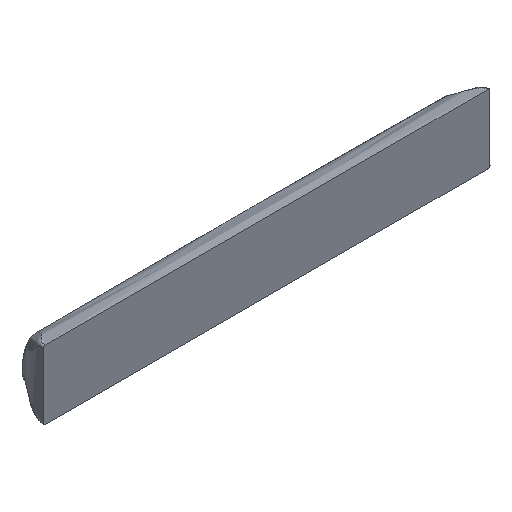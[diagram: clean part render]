
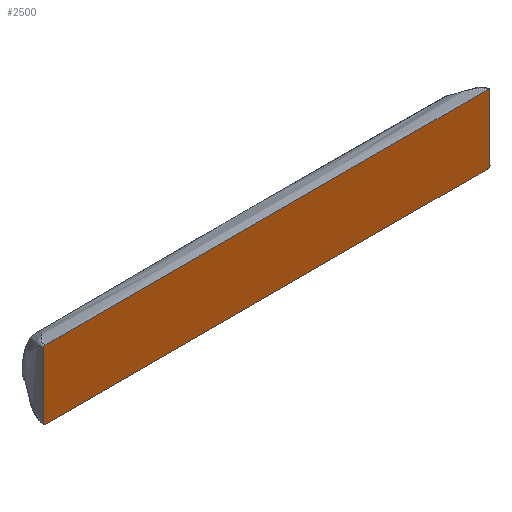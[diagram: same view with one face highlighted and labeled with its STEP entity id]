
A CAD part, isometric view. The second image highlights one B-rep face of the part: STEP entity #2500.
In plain terms, the highlighted planar face has unit normal (0, -1, 0).
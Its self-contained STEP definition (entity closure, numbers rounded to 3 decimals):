
#22 = VERTEX_POINT ( 'NONE', #55 ) ;
#38 = DIRECTION ( 'NONE',  ( 1., 0., 0. ) ) ;
#51 = EDGE_CURVE ( 'NONE', #794, #1899, #1931, .T. ) ;
#55 = CARTESIAN_POINT ( 'NONE',  ( -58.606, 0., -9.1 ) ) ;
#110 = CARTESIAN_POINT ( 'NONE',  ( -59.106, 0., 8.933 ) ) ;
#198 = EDGE_CURVE ( 'NONE', #2284, #2400, #2018, .T. ) ;
#298 = B_SPLINE_CURVE_WITH_KNOTS ( 'NONE', 3,
 ( #483, #1780, #1815, #2040 ),
 .UNSPECIFIED., .F., .F.,
 ( 4, 4 ),
 ( 0., 1. ),
 .UNSPECIFIED. ) ;
#395 = EDGE_CURVE ( 'NONE', #1311, #22, #1669, .T. ) ;
#427 = VECTOR ( 'NONE', #1756, 1000. ) ;
#483 = CARTESIAN_POINT ( 'NONE',  ( 59.106, 0., 8.6 ) ) ;
#494 = ORIENTED_EDGE ( 'NONE', *, *, #1329, .T. ) ;
#594 = EDGE_CURVE ( 'NONE', #2284, #22, #1594, .T. ) ;
#675 = DIRECTION ( 'NONE',  ( 0., -1., 0. ) ) ;
#681 = CARTESIAN_POINT ( 'NONE',  ( 58.606, 0., 9.1 ) ) ;
#687 = CARTESIAN_POINT ( 'NONE',  ( -59.106, 0., -9.1 ) ) ;
#742 = ORIENTED_EDGE ( 'NONE', *, *, #395, .F. ) ;
#759 = EDGE_CURVE ( 'NONE', #1774, #1899, #298, .T. ) ;
#794 = VERTEX_POINT ( 'NONE', #3367 ) ;
#830 = CARTESIAN_POINT ( 'NONE',  ( -58.606, 0., 9.1 ) ) ;
#854 = CARTESIAN_POINT ( 'NONE',  ( 59.106, 0., -8.6 ) ) ;
#871 = CARTESIAN_POINT ( 'NONE',  ( 58.606, 0., -9.1 ) ) ;
#881 = CARTESIAN_POINT ( 'NONE',  ( 59.106, 0., 9.1 ) ) ;
#883 = CARTESIAN_POINT ( 'NONE',  ( 59.106, 0., -9.1 ) ) ;
#897 = DIRECTION ( 'NONE',  ( 0., 0., -1. ) ) ;
#981 = VECTOR ( 'NONE', #897, 1000. ) ;
#985 = FACE_OUTER_BOUND ( 'NONE', #2250, .T. ) ;
#1033 = ORIENTED_EDGE ( 'NONE', *, *, #51, .F. ) ;
#1041 = B_SPLINE_CURVE_WITH_KNOTS ( 'NONE', 3,
 ( #830, #1886, #110, #2524 ),
 .UNSPECIFIED., .F., .F.,
 ( 4, 4 ),
 ( 0., 1. ),
 .UNSPECIFIED. ) ;
#1132 = CARTESIAN_POINT ( 'NONE',  ( 59.106, 0., -9.1 ) ) ;
#1258 = PLANE ( 'NONE',  #3187 ) ;
#1287 = B_SPLINE_CURVE_WITH_KNOTS ( 'NONE', 3,
 ( #871, #1908, #3222, #854 ),
 .UNSPECIFIED., .F., .F.,
 ( 4, 4 ),
 ( 0., 1. ),
 .UNSPECIFIED. ) ;
#1311 = VERTEX_POINT ( 'NONE', #2664 ) ;
#1329 = EDGE_CURVE ( 'NONE', #1311, #3376, #1287, .T. ) ;
#1418 = CARTESIAN_POINT ( 'NONE',  ( -59.106, 0., 8.6 ) ) ;
#1492 = VECTOR ( 'NONE', #38, 1000. ) ;
#1515 = CARTESIAN_POINT ( 'NONE',  ( 0., 0., 0. ) ) ;
#1529 = EDGE_CURVE ( 'NONE', #1774, #3376, #1637, .T. ) ;
#1556 = CARTESIAN_POINT ( 'NONE',  ( -58.606, 0., -9.1 ) ) ;
#1585 = ORIENTED_EDGE ( 'NONE', *, *, #2798, .T. ) ;
#1590 = CARTESIAN_POINT ( 'NONE',  ( -59.106, 0., -8.933 ) ) ;
#1594 = B_SPLINE_CURVE_WITH_KNOTS ( 'NONE', 3,
 ( #1833, #1590, #2897, #1556 ),
 .UNSPECIFIED., .F., .F.,
 ( 4, 4 ),
 ( 0., 1. ),
 .UNSPECIFIED. ) ;
#1637 = LINE ( 'NONE', #883, #981 ) ;
#1669 = LINE ( 'NONE', #1132, #2207 ) ;
#1756 = DIRECTION ( 'NONE',  ( 0., 0., 1. ) ) ;
#1774 = VERTEX_POINT ( 'NONE', #3389 ) ;
#1780 = CARTESIAN_POINT ( 'NONE',  ( 59.106, 0., 8.933 ) ) ;
#1815 = CARTESIAN_POINT ( 'NONE',  ( 58.94, 0., 9.1 ) ) ;
#1833 = CARTESIAN_POINT ( 'NONE',  ( -59.106, 0., -8.6 ) ) ;
#1882 = ORIENTED_EDGE ( 'NONE', *, *, #594, .T. ) ;
#1886 = CARTESIAN_POINT ( 'NONE',  ( -58.94, 0., 9.1 ) ) ;
#1899 = VERTEX_POINT ( 'NONE', #681 ) ;
#1908 = CARTESIAN_POINT ( 'NONE',  ( 58.94, 0., -9.1 ) ) ;
#1931 = LINE ( 'NONE', #881, #1492 ) ;
#2018 = LINE ( 'NONE', #687, #427 ) ;
#2040 = CARTESIAN_POINT ( 'NONE',  ( 58.606, 0., 9.1 ) ) ;
#2207 = VECTOR ( 'NONE', #2979, 1000. ) ;
#2250 = EDGE_LOOP ( 'NONE', ( #3228, #1882, #742, #494, #2909, #2384, #1033, #1585 ) ) ;
#2252 = DIRECTION ( 'NONE',  ( 0., 0., -1. ) ) ;
#2284 = VERTEX_POINT ( 'NONE', #2386 ) ;
#2384 = ORIENTED_EDGE ( 'NONE', *, *, #759, .T. ) ;
#2386 = CARTESIAN_POINT ( 'NONE',  ( -59.106, 0., -8.6 ) ) ;
#2400 = VERTEX_POINT ( 'NONE', #1418 ) ;
#2500 = ADVANCED_FACE ( 'NONE', ( #985 ), #1258, .T. ) ;
#2524 = CARTESIAN_POINT ( 'NONE',  ( -59.106, 0., 8.6 ) ) ;
#2664 = CARTESIAN_POINT ( 'NONE',  ( 58.606, 0., -9.1 ) ) ;
#2676 = CARTESIAN_POINT ( 'NONE',  ( 59.106, 0., -8.6 ) ) ;
#2798 = EDGE_CURVE ( 'NONE', #794, #2400, #1041, .T. ) ;
#2897 = CARTESIAN_POINT ( 'NONE',  ( -58.94, 0., -9.1 ) ) ;
#2909 = ORIENTED_EDGE ( 'NONE', *, *, #1529, .F. ) ;
#2979 = DIRECTION ( 'NONE',  ( -1., 0., 0. ) ) ;
#3187 = AXIS2_PLACEMENT_3D ( 'NONE', #1515, #675, #2252 ) ;
#3222 = CARTESIAN_POINT ( 'NONE',  ( 59.106, 0., -8.933 ) ) ;
#3228 = ORIENTED_EDGE ( 'NONE', *, *, #198, .F. ) ;
#3367 = CARTESIAN_POINT ( 'NONE',  ( -58.606, 0., 9.1 ) ) ;
#3376 = VERTEX_POINT ( 'NONE', #2676 ) ;
#3389 = CARTESIAN_POINT ( 'NONE',  ( 59.106, 0., 8.6 ) ) ;
